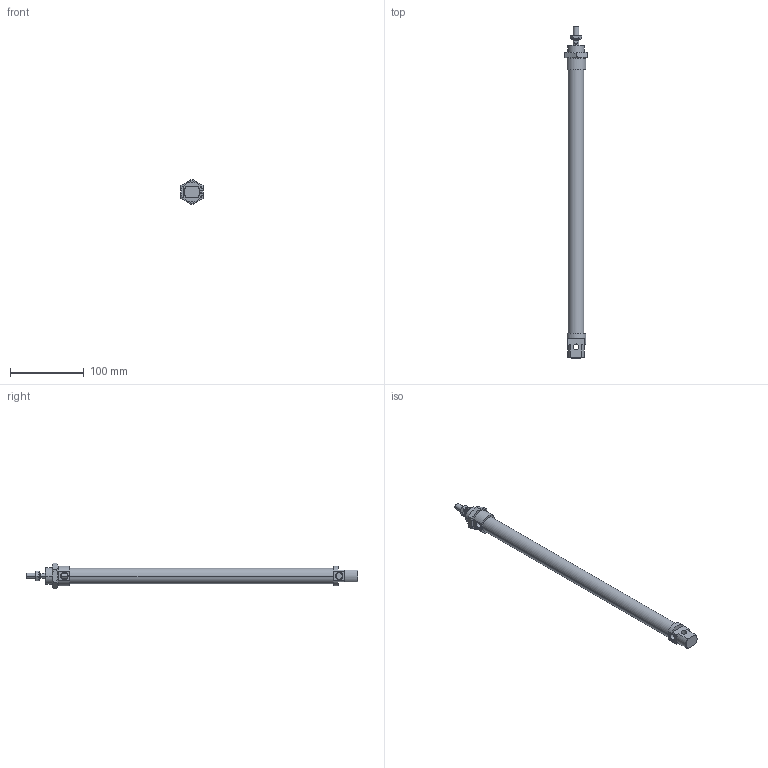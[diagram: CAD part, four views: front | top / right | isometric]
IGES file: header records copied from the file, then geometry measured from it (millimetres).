
Global section: file name: No Iges File Name specified; native system: Autodesk Inventor 2010; preprocessor: AutoDesk Inventor Iges Exporter R2010; author: rivolro1; date: 20090604.093318; units: millimetre
Bounding box: 30 x 450 x 34.64 mm (x, y, z)
Volume: 157313.3 mm3; surface area: 51928.9 mm2
Topology: 4 solids, 4 shells, 110 faces, 249 edges, 152 vertices
Faces by surface type: plane 41, cone 28, bspline 21, cylinder 14, revolution 6
